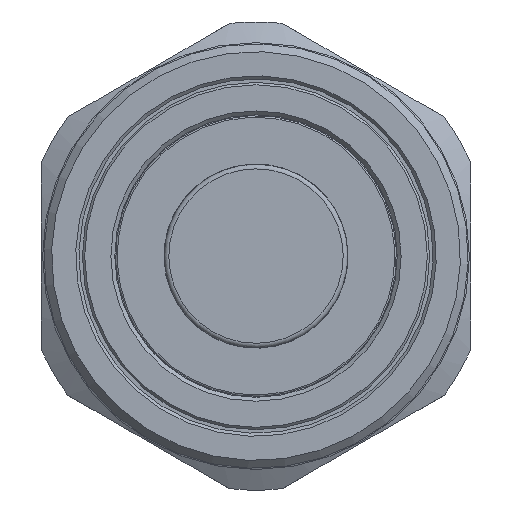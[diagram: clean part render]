
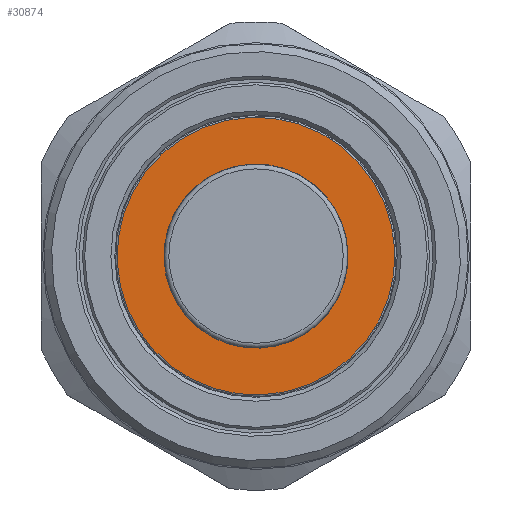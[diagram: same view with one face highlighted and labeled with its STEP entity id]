
A CAD part, left-side view. The second image highlights one B-rep face of the part: STEP entity #30874.
In plain terms, the highlighted planar face has unit normal (-1, 0, 0).
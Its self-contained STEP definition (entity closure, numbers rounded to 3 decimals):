
#3360=FACE_BOUND('',#6180,.T.);
#3610=PLANE('',#32448);
#4506=FACE_OUTER_BOUND('',#6179,.T.);
#6179=EDGE_LOOP('',(#22770));
#6180=EDGE_LOOP('',(#22771));
#11182=CIRCLE('',#32446,17.8);
#11184=CIRCLE('',#32449,11.8);
#12673=VERTEX_POINT('',#49372);
#12674=VERTEX_POINT('',#49377);
#16356=EDGE_CURVE('',#12673,#12673,#11182,.T.);
#16358=EDGE_CURVE('',#12674,#12674,#11184,.T.);
#22770=ORIENTED_EDGE('',*,*,#16356,.F.);
#22771=ORIENTED_EDGE('',*,*,#16358,.T.);
#30874=ADVANCED_FACE('',(#4506,#3360),#3610,.T.);
#32446=AXIS2_PLACEMENT_3D('',#49374,#34893,#34894);
#32448=AXIS2_PLACEMENT_3D('',#49376,#34897,#34898);
#32449=AXIS2_PLACEMENT_3D('',#49378,#34899,#34900);
#34893=DIRECTION('center_axis',(1.,0.,0.));
#34894=DIRECTION('ref_axis',(0.,0.218,0.976));
#34897=DIRECTION('center_axis',(-1.,0.,0.));
#34898=DIRECTION('ref_axis',(0.,-0.976,0.218));
#34899=DIRECTION('center_axis',(1.,0.,0.));
#34900=DIRECTION('ref_axis',(0.,0.218,0.976));
#49372=CARTESIAN_POINT('',(-35.3,-17.37,3.889));
#49374=CARTESIAN_POINT('Origin',(-35.3,0.,0.));
#49376=CARTESIAN_POINT('Origin',(-35.3,-3.933,-17.565));
#49377=CARTESIAN_POINT('',(-35.3,2.578,11.515));
#49378=CARTESIAN_POINT('Origin',(-35.3,0.,0.));
